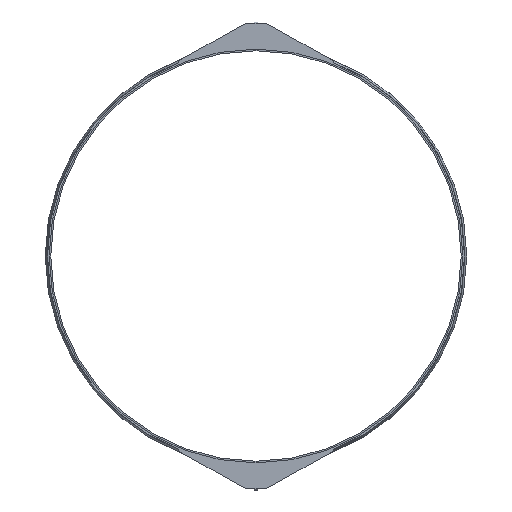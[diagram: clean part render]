
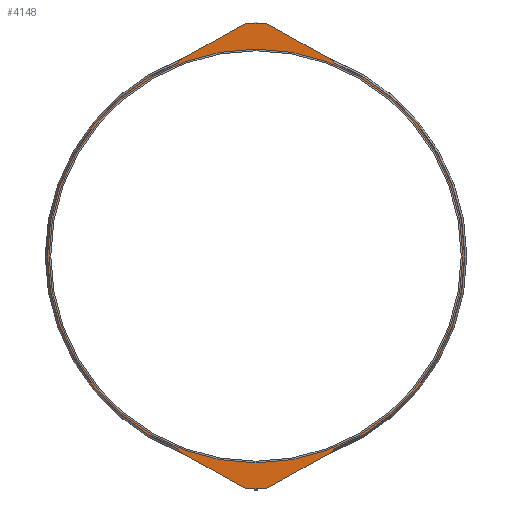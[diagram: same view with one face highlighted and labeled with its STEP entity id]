
A CAD part, left-side view. The second image highlights one B-rep face of the part: STEP entity #4148.
In plain terms, the highlighted planar face has unit normal (-1, 0, 0).
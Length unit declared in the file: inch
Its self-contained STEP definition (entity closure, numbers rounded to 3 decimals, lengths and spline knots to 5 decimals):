
#126=FACE_BOUND('',#718,.T.);
#268=PLANE('',#4523);
#479=FACE_OUTER_BOUND('',#717,.T.);
#717=EDGE_LOOP('',(#3664,#3665,#3666,#3667,#3668,#3669,#3670,#3671,#3672,
#3673,#3674,#3675,#3676,#3677,#3678,#3679,#3680,#3681,#3682,#3683));
#718=EDGE_LOOP('',(#3684,#3685));
#846=LINE('',#5992,#1235);
#849=LINE('',#6000,#1238);
#853=LINE('',#6009,#1242);
#856=LINE('',#6017,#1245);
#857=LINE('',#6020,#1246);
#1049=LINE('',#6769,#1438);
#1053=LINE('',#6778,#1442);
#1056=LINE('',#6786,#1445);
#1059=LINE('',#6793,#1448);
#1061=LINE('',#6797,#1450);
#1235=VECTOR('',#4846,0.3937);
#1238=VECTOR('',#4855,0.3937);
#1242=VECTOR('',#4865,0.3937);
#1245=VECTOR('',#4874,0.3937);
#1246=VECTOR('',#4877,0.3937);
#1438=VECTOR('',#5381,0.3937);
#1442=VECTOR('',#5391,0.3937);
#1445=VECTOR('',#5400,0.3937);
#1448=VECTOR('',#5409,0.3937);
#1450=VECTOR('',#5413,0.3937);
#1524=CIRCLE('',#4257,0.063);
#1525=CIRCLE('',#4260,0.125);
#1526=CIRCLE('',#4263,0.125);
#1527=CIRCLE('',#4266,0.063);
#1530=CIRCLE('',#4272,48.375);
#1583=CIRCLE('',#4423,0.063);
#1584=CIRCLE('',#4426,0.125);
#1585=CIRCLE('',#4429,0.125);
#1586=CIRCLE('',#4432,0.063);
#1596=CIRCLE('',#4463,48.375);
#1639=CIRCLE('',#4521,48.);
#1640=CIRCLE('',#4522,48.);
#1748=VERTEX_POINT('',#5984);
#1749=VERTEX_POINT('',#5986);
#1750=VERTEX_POINT('',#5990);
#1751=VERTEX_POINT('',#5994);
#1752=VERTEX_POINT('',#5998);
#1753=VERTEX_POINT('',#6003);
#1754=VERTEX_POINT('',#6007);
#1755=VERTEX_POINT('',#6011);
#1756=VERTEX_POINT('',#6015);
#1757=VERTEX_POINT('',#6019);
#1762=VERTEX_POINT('',#6031);
#1940=VERTEX_POINT('',#6762);
#1941=VERTEX_POINT('',#6764);
#1942=VERTEX_POINT('',#6768);
#1943=VERTEX_POINT('',#6772);
#1944=VERTEX_POINT('',#6777);
#1945=VERTEX_POINT('',#6781);
#1946=VERTEX_POINT('',#6785);
#1947=VERTEX_POINT('',#6789);
#1948=VERTEX_POINT('',#6795);
#2013=VERTEX_POINT('',#6993);
#2014=VERTEX_POINT('',#6995);
#2167=EDGE_CURVE('',#1748,#1749,#1524,.T.);
#2170=EDGE_CURVE('',#1750,#1748,#846,.T.);
#2172=EDGE_CURVE('',#1751,#1750,#1525,.T.);
#2174=EDGE_CURVE('',#1752,#1751,#849,.T.);
#2177=EDGE_CURVE('',#1753,#1752,#1526,.T.);
#2179=EDGE_CURVE('',#1754,#1753,#853,.T.);
#2181=EDGE_CURVE('',#1755,#1754,#1527,.T.);
#2183=EDGE_CURVE('',#1756,#1755,#856,.T.);
#2184=EDGE_CURVE('',#1749,#1757,#857,.T.);
#2191=EDGE_CURVE('',#1762,#1756,#1530,.T.);
#2454=EDGE_CURVE('',#1941,#1940,#1583,.T.);
#2456=EDGE_CURVE('',#1942,#1941,#1049,.T.);
#2458=EDGE_CURVE('',#1943,#1942,#1584,.T.);
#2461=EDGE_CURVE('',#1944,#1943,#1053,.T.);
#2463=EDGE_CURVE('',#1945,#1944,#1585,.T.);
#2465=EDGE_CURVE('',#1946,#1945,#1056,.T.);
#2467=EDGE_CURVE('',#1947,#1946,#1586,.T.);
#2469=EDGE_CURVE('',#1762,#1947,#1059,.T.);
#2471=EDGE_CURVE('',#1940,#1948,#1061,.T.);
#2520=EDGE_CURVE('',#1757,#1948,#1596,.T.);
#2570=EDGE_CURVE('',#2014,#2013,#1639,.T.);
#2571=EDGE_CURVE('',#2013,#2014,#1640,.T.);
#3664=ORIENTED_EDGE('',*,*,#2191,.F.);
#3665=ORIENTED_EDGE('',*,*,#2469,.T.);
#3666=ORIENTED_EDGE('',*,*,#2467,.T.);
#3667=ORIENTED_EDGE('',*,*,#2465,.T.);
#3668=ORIENTED_EDGE('',*,*,#2463,.T.);
#3669=ORIENTED_EDGE('',*,*,#2461,.T.);
#3670=ORIENTED_EDGE('',*,*,#2458,.T.);
#3671=ORIENTED_EDGE('',*,*,#2456,.T.);
#3672=ORIENTED_EDGE('',*,*,#2454,.T.);
#3673=ORIENTED_EDGE('',*,*,#2471,.T.);
#3674=ORIENTED_EDGE('',*,*,#2520,.F.);
#3675=ORIENTED_EDGE('',*,*,#2184,.F.);
#3676=ORIENTED_EDGE('',*,*,#2167,.F.);
#3677=ORIENTED_EDGE('',*,*,#2170,.F.);
#3678=ORIENTED_EDGE('',*,*,#2172,.F.);
#3679=ORIENTED_EDGE('',*,*,#2174,.F.);
#3680=ORIENTED_EDGE('',*,*,#2177,.F.);
#3681=ORIENTED_EDGE('',*,*,#2179,.F.);
#3682=ORIENTED_EDGE('',*,*,#2181,.F.);
#3683=ORIENTED_EDGE('',*,*,#2183,.F.);
#3684=ORIENTED_EDGE('',*,*,#2570,.T.);
#3685=ORIENTED_EDGE('',*,*,#2571,.T.);
#4148=ADVANCED_FACE('',(#479,#126),#268,.T.);
#4257=AXIS2_PLACEMENT_3D('',#5987,#4840,#4841);
#4260=AXIS2_PLACEMENT_3D('',#5996,#4850,#4851);
#4263=AXIS2_PLACEMENT_3D('',#6005,#4860,#4861);
#4266=AXIS2_PLACEMENT_3D('',#6013,#4869,#4870);
#4272=AXIS2_PLACEMENT_3D('',#6033,#4888,#4889);
#4423=AXIS2_PLACEMENT_3D('',#6765,#5376,#5377);
#4426=AXIS2_PLACEMENT_3D('',#6773,#5385,#5386);
#4429=AXIS2_PLACEMENT_3D('',#6782,#5395,#5396);
#4432=AXIS2_PLACEMENT_3D('',#6790,#5404,#5405);
#4463=AXIS2_PLACEMENT_3D('',#6894,#5509,#5510);
#4521=AXIS2_PLACEMENT_3D('',#6996,#5632,#5633);
#4522=AXIS2_PLACEMENT_3D('',#6997,#5634,#5635);
#4523=AXIS2_PLACEMENT_3D('',#6998,#5636,#5637);
#4840=DIRECTION('center_axis',(1.,0.,0.));
#4841=DIRECTION('ref_axis',(0.,-1.,0.));
#4846=DIRECTION('',(0.,0.873,0.487));
#4850=DIRECTION('center_axis',(1.,0.,0.));
#4851=DIRECTION('ref_axis',(0.,-0.487,0.873));
#4855=DIRECTION('',(0.,1.,0.));
#4860=DIRECTION('center_axis',(1.,0.,0.));
#4861=DIRECTION('ref_axis',(0.,0.,1.));
#4865=DIRECTION('',(0.,0.873,-0.487));
#4869=DIRECTION('center_axis',(1.,0.,0.));
#4870=DIRECTION('ref_axis',(0.,0.487,0.873));
#4874=DIRECTION('',(0.,0.,-1.));
#4877=DIRECTION('',(0.,0.,1.));
#4888=DIRECTION('center_axis',(1.,0.,0.));
#4889=DIRECTION('ref_axis',(0.,0.,-1.));
#5376=DIRECTION('center_axis',(-1.,0.,0.));
#5377=DIRECTION('ref_axis',(0.,-1.,0.));
#5381=DIRECTION('',(0.,0.873,-0.487));
#5385=DIRECTION('center_axis',(-1.,0.,0.));
#5386=DIRECTION('ref_axis',(0.,-0.487,-0.873));
#5391=DIRECTION('',(0.,1.,0.));
#5395=DIRECTION('center_axis',(-1.,0.,0.));
#5396=DIRECTION('ref_axis',(0.,0.,-1.));
#5400=DIRECTION('',(0.,0.873,0.487));
#5404=DIRECTION('center_axis',(-1.,0.,0.));
#5405=DIRECTION('ref_axis',(0.,0.487,-0.873));
#5409=DIRECTION('',(0.,0.,1.));
#5413=DIRECTION('',(0.,0.,-1.));
#5509=DIRECTION('center_axis',(1.,0.,0.));
#5510=DIRECTION('ref_axis',(0.,0.,-1.));
#5632=DIRECTION('center_axis',(1.,0.,0.));
#5633=DIRECTION('ref_axis',(0.,0.,-1.));
#5634=DIRECTION('center_axis',(1.,0.,0.));
#5635=DIRECTION('ref_axis',(0.,0.,-1.));
#5636=DIRECTION('center_axis',(-1.,0.,0.));
#5637=DIRECTION('ref_axis',(0.,0.,1.));
#5984=CARTESIAN_POINT('',(-6.25,17.96768,-45.29448));
#5986=CARTESIAN_POINT('',(-6.25,18.,-45.23945));
#5987=CARTESIAN_POINT('Origin',(-6.25,17.937,-45.23945));
#5990=CARTESIAN_POINT('',(-6.25,2.42838,-53.95917));
#5992=CARTESIAN_POINT('',(-6.25,2.42838,-53.95917));
#5994=CARTESIAN_POINT('',(-6.25,2.36751,-53.975));
#5996=CARTESIAN_POINT('Origin',(-6.25,2.36751,-53.85));
#5998=CARTESIAN_POINT('',(-6.25,-2.36751,-53.975));
#6000=CARTESIAN_POINT('',(-6.25,0.,-53.975));
#6003=CARTESIAN_POINT('',(-6.25,-2.42838,-53.95917));
#6005=CARTESIAN_POINT('Origin',(-6.25,-2.36751,-53.85));
#6007=CARTESIAN_POINT('',(-6.25,-17.96768,-45.29448));
#6009=CARTESIAN_POINT('',(-6.25,-17.96768,-45.29448));
#6011=CARTESIAN_POINT('',(-6.25,-18.,-45.23945));
#6013=CARTESIAN_POINT('Origin',(-6.25,-17.937,-45.23945));
#6015=CARTESIAN_POINT('',(-6.25,-18.,-44.90145));
#6017=CARTESIAN_POINT('',(-6.25,-18.,-44.90145));
#6019=CARTESIAN_POINT('',(-6.25,18.,-44.90145));
#6020=CARTESIAN_POINT('',(-6.25,18.,-45.23945));
#6031=CARTESIAN_POINT('',(-6.25,-18.,44.90145));
#6033=CARTESIAN_POINT('Origin',(-6.25,0.,0.));
#6762=CARTESIAN_POINT('',(-6.25,18.,45.23945));
#6764=CARTESIAN_POINT('',(-6.25,17.96768,45.29448));
#6765=CARTESIAN_POINT('Origin',(-6.25,17.937,45.23945));
#6768=CARTESIAN_POINT('',(-6.25,2.42838,53.95917));
#6769=CARTESIAN_POINT('',(-6.25,2.42838,53.95917));
#6772=CARTESIAN_POINT('',(-6.25,2.36751,53.975));
#6773=CARTESIAN_POINT('Origin',(-6.25,2.36751,53.85));
#6777=CARTESIAN_POINT('',(-6.25,-2.36751,53.975));
#6778=CARTESIAN_POINT('',(-6.25,0.,53.975));
#6781=CARTESIAN_POINT('',(-6.25,-2.42838,53.95917));
#6782=CARTESIAN_POINT('Origin',(-6.25,-2.36751,53.85));
#6785=CARTESIAN_POINT('',(-6.25,-17.96768,45.29448));
#6786=CARTESIAN_POINT('',(-6.25,-17.96768,45.29448));
#6789=CARTESIAN_POINT('',(-6.25,-18.,45.23945));
#6790=CARTESIAN_POINT('Origin',(-6.25,-17.937,45.23945));
#6793=CARTESIAN_POINT('',(-6.25,-18.,44.90145));
#6795=CARTESIAN_POINT('',(-6.25,18.,44.90145));
#6797=CARTESIAN_POINT('',(-6.25,18.,45.23945));
#6894=CARTESIAN_POINT('Origin',(-6.25,0.,0.));
#6993=CARTESIAN_POINT('',(-6.25,-48.,0.));
#6995=CARTESIAN_POINT('',(-6.25,48.,0.));
#6996=CARTESIAN_POINT('Origin',(-6.25,0.,0.));
#6997=CARTESIAN_POINT('Origin',(-6.25,0.,0.));
#6998=CARTESIAN_POINT('Origin',(-6.25,48.375,0.));
